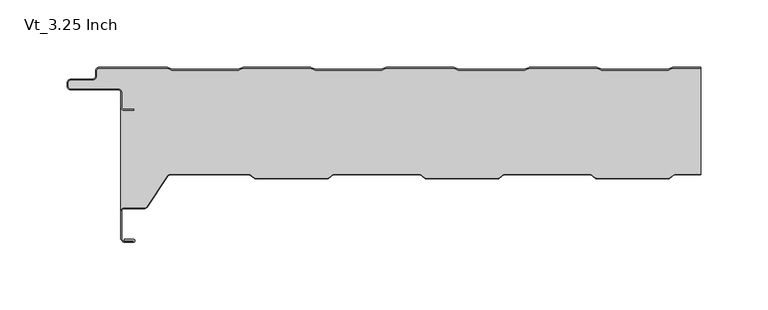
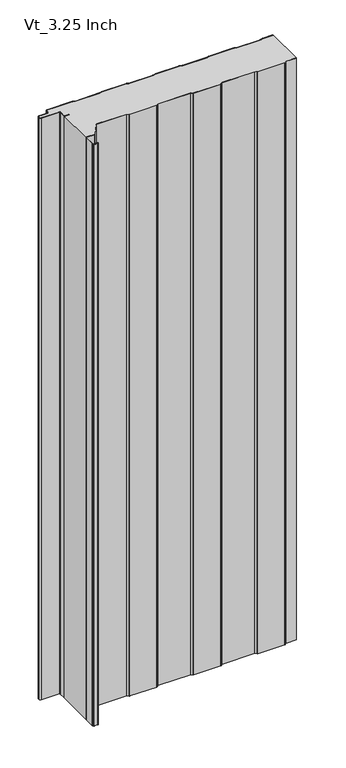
"""IFC4 building model written with IfcOpenShell, lengths in millimetres: plate geometry, KIP_R19_CP_KingSeam_Vt_Roof Panel : Vt_3.25 Inch."""

from ifc_helpers import new_model, si_unit, point, frame_2d, origin, origin_with_axes, place, context, project, spatial, polyline, circle_curve, trimmed, segment, composite_curve, outline, extrude, source, transform, mapped, element, save


def vt_3_25_inch_0b0972e9(model_context):
    return source(origin(), model_context, "Body", "SweptSolid", [
        extrude(outline(composite_curve([segment(trimmed(circle_curve(frame_2d((-213.9200605, -30.0)), 2.0), [point((-213.9200605, -32.0))], [point((-215.9200605, -30.0))], False, "CARTESIAN"), True, "CONTINUOUS"), segment(polyline([(-215.9200605, -30.0), (-215.9200605, -18.5)]), True, "CONTINUOUS"), segment(trimmed(circle_curve(frame_2d((-217.4200605, -18.5)), 1.5), [point((-215.9200605, -18.5))], [point((-217.4200605, -17.0))], True, "CARTESIAN"), True, "CONTINUOUS"), segment(polyline([(-217.4200605, -17.0), (-252.9200605, -17.0)]), True, "CONTINUOUS"), segment(trimmed(circle_curve(frame_2d((-252.9200605, -14.0)), 3.0), [point((-252.9200605, -17.0))], [point((-255.9200605, -14.0))], False, "CARTESIAN"), True, "CONTINUOUS"), segment(polyline([(-255.9200605, -14.0), (-255.9200605, -12.0)]), True, "CONTINUOUS"), segment(trimmed(circle_curve(frame_2d((-252.9200605, -12.0)), 3.0), [point((-255.9200605, -12.0))], [point((-252.9200605, -9.0))], False, "CARTESIAN"), True, "CONTINUOUS"), segment(polyline([(-252.9200605, -9.0), (-237.2042607, -9.0)]), True, "CONTINUOUS"), segment(trimmed(circle_curve(frame_2d((-237.2042607, -6.5)), 2.5), [point((-237.2042607, -9.0))], [point((-234.7042607, -6.5))], True, "CARTESIAN"), True, "CONTINUOUS"), segment(polyline([(-234.7042607, -6.5), (-234.7042607, -3.0)]), True, "CONTINUOUS"), segment(trimmed(circle_curve(frame_2d((-231.7042607, -3.0)), 3.0), [point((-234.7042607, -3.0))], [point((-231.7042607, 0.0))], False, "CARTESIAN"), True, "CONTINUOUS"), segment(polyline([(-231.7042607, 0.0), (-181.9469381, 0.0)]), True, "CONTINUOUS"), segment(trimmed(circle_curve(frame_2d((-181.9469381, -3.2)), 3.2), [point((-181.9469381, 0.0))], [point((-180.677843, -0.2624164))], False, "CARTESIAN"), True, "CONTINUOUS"), segment(polyline([(-180.677843, -0.2624164), (-178.2877438, -1.2949872)]), True, "CONTINUOUS"), segment(trimmed(circle_curve(frame_2d((-177.2962632, 1.0)), 2.5), [point((-178.2877438, -1.2949872))], [point((-177.2962632, -1.5))], True, "CARTESIAN"), True, "CONTINUOUS"), segment(polyline([(-177.2962632, -1.5), (-128.9122581, -1.5)]), True, "CONTINUOUS"), segment(trimmed(circle_curve(frame_2d((-128.9122581, 1.0)), 2.5), [point((-128.9122581, -1.5))], [point((-127.9207775, -1.2949872))], True, "CARTESIAN"), True, "CONTINUOUS"), segment(polyline([(-127.9207775, -1.2949872), (-125.5306783, -0.2624164)]), True, "CONTINUOUS"), segment(trimmed(circle_curve(frame_2d((-124.2615832, -3.2)), 3.2), [point((-125.5306783, -0.2624164))], [point((-124.2615832, 0.0))], False, "CARTESIAN"), True, "CONTINUOUS"), segment(polyline([(-124.2615832, 0.0), (-75.3469381, 0.0)]), True, "CONTINUOUS"), segment(trimmed(circle_curve(frame_2d((-75.3469381, -3.2)), 3.2), [point((-75.3469381, 0.0))], [point((-74.077843, -0.2624164))], False, "CARTESIAN"), True, "CONTINUOUS"), segment(polyline([(-74.077843, -0.2624164), (-71.6877438, -1.2949872)]), True, "CONTINUOUS"), segment(trimmed(circle_curve(frame_2d((-70.6962632, 1.0)), 2.5), [point((-71.6877438, -1.2949872))], [point((-70.6962632, -1.5))], True, "CARTESIAN"), True, "CONTINUOUS"), segment(polyline([(-70.6962632, -1.5), (-22.3122581, -1.5)]), True, "CONTINUOUS"), segment(trimmed(circle_curve(frame_2d((-22.3122581, 1.0)), 2.5), [point((-22.3122581, -1.5))], [point((-21.3207775, -1.2949872))], True, "CARTESIAN"), True, "CONTINUOUS"), segment(polyline([(-21.3207775, -1.2949872), (-18.9306783, -0.2624164)]), True, "CONTINUOUS"), segment(trimmed(circle_curve(frame_2d((-17.6615832, -3.2)), 3.2), [point((-18.9306783, -0.2624164))], [point((-17.6615832, 0.0))], False, "CARTESIAN"), True, "CONTINUOUS"), segment(polyline([(-17.6615832, 0.0), (31.2530619, 0.0)]), True, "CONTINUOUS"), segment(trimmed(circle_curve(frame_2d((31.2530619, -3.2)), 3.2), [point((31.2530619, 0.0))], [point((32.522157, -0.2624164))], False, "CARTESIAN"), True, "CONTINUOUS"), segment(polyline([(32.522157, -0.2624164), (34.9122562, -1.2949872)]), True, "CONTINUOUS"), segment(trimmed(circle_curve(frame_2d((35.9037368, 1.0)), 2.5), [point((34.9122562, -1.2949872))], [point((35.9037368, -1.5))], True, "CARTESIAN"), True, "CONTINUOUS"), segment(polyline([(35.9037368, -1.5), (84.2877419, -1.5)]), True, "CONTINUOUS"), segment(trimmed(circle_curve(frame_2d((84.2877419, 1.0)), 2.5), [point((84.2877419, -1.5))], [point((85.2792225, -1.2949872))], True, "CARTESIAN"), True, "CONTINUOUS"), segment(polyline([(85.2792225, -1.2949872), (87.6693217, -0.2624164)]), True, "CONTINUOUS"), segment(trimmed(circle_curve(frame_2d((88.9384168, -3.2)), 3.2), [point((87.6693217, -0.2624164))], [point((88.9384168, 0.0))], False, "CARTESIAN"), True, "CONTINUOUS"), segment(polyline([(88.9384168, 0.0), (137.8530619, 0.0)]), True, "CONTINUOUS"), segment(trimmed(circle_curve(frame_2d((137.8530619, -3.2)), 3.2), [point((137.8530619, 0.0))], [point((139.122157, -0.2624164))], False, "CARTESIAN"), True, "CONTINUOUS"), segment(polyline([(139.122157, -0.2624164), (141.5122562, -1.2949872)]), True, "CONTINUOUS"), segment(trimmed(circle_curve(frame_2d((142.5037368, 1.0)), 2.5), [point((141.5122562, -1.2949872))], [point((142.5037368, -1.5))], True, "CARTESIAN"), True, "CONTINUOUS"), segment(polyline([(142.5037368, -1.5), (190.8877419, -1.5)]), True, "CONTINUOUS"), segment(trimmed(circle_curve(frame_2d((190.8877419, 1.0)), 2.5), [point((190.8877419, -1.5))], [point((191.8792225, -1.2949872))], True, "CARTESIAN"), True, "CONTINUOUS"), segment(polyline([(191.8792225, -1.2949872), (194.2693217, -0.2624164)]), True, "CONTINUOUS"), segment(trimmed(circle_curve(frame_2d((195.5384168, -3.2)), 3.2), [point((194.2693217, -0.2624164))], [point((195.5384168, 0.0))], False, "CARTESIAN"), True, "CONTINUOUS"), segment(polyline([(195.5384168, 0.0), (215.9042607, 0.0), (215.9042607, -0.8), (195.5384168, -0.8)]), True, "CONTINUOUS"), segment(trimmed(circle_curve(frame_2d((195.5384168, -3.2)), 2.4), [point((195.5384168, -0.8))], [point((194.5865954, -0.9968123))], True, "CARTESIAN"), True, "CONTINUOUS"), segment(polyline([(194.5865954, -0.9968123), (192.1964962, -2.0293831)]), True, "CONTINUOUS"), segment(trimmed(circle_curve(frame_2d((190.8877419, 1.0)), 3.3), [point((192.1964962, -2.0293831))], [point((190.8877419, -2.3))], False, "CARTESIAN"), True, "CONTINUOUS"), segment(polyline([(190.8877419, -2.3), (142.5037368, -2.3)]), True, "CONTINUOUS"), segment(trimmed(circle_curve(frame_2d((142.5037368, 1.0)), 3.3), [point((142.5037368, -2.3))], [point((141.1949824, -2.0293831))], False, "CARTESIAN"), True, "CONTINUOUS"), segment(polyline([(141.1949824, -2.0293831), (138.8048832, -0.9968123)]), True, "CONTINUOUS"), segment(trimmed(circle_curve(frame_2d((137.8530619, -3.2)), 2.4), [point((138.8048832, -0.9968123))], [point((137.8530619, -0.8))], True, "CARTESIAN"), True, "CONTINUOUS"), segment(polyline([(137.8530619, -0.8), (88.9384168, -0.8)]), True, "CONTINUOUS"), segment(trimmed(circle_curve(frame_2d((88.9384168, -3.2)), 2.4), [point((88.9384168, -0.8))], [point((87.9865954, -0.9968123))], True, "CARTESIAN"), True, "CONTINUOUS"), segment(polyline([(87.9865954, -0.9968123), (85.5964962, -2.0293831)]), True, "CONTINUOUS"), segment(trimmed(circle_curve(frame_2d((84.2877419, 1.0)), 3.3), [point((85.5964962, -2.0293831))], [point((84.2877419, -2.3))], False, "CARTESIAN"), True, "CONTINUOUS"), segment(polyline([(84.2877419, -2.3), (35.9037368, -2.3)]), True, "CONTINUOUS"), segment(trimmed(circle_curve(frame_2d((35.9037368, 1.0)), 3.3), [point((35.9037368, -2.3))], [point((34.5949824, -2.0293831))], False, "CARTESIAN"), True, "CONTINUOUS"), segment(polyline([(34.5949824, -2.0293831), (32.2048832, -0.9968123)]), True, "CONTINUOUS"), segment(trimmed(circle_curve(frame_2d((31.2530619, -3.2)), 2.4), [point((32.2048832, -0.9968123))], [point((31.2530619, -0.8))], True, "CARTESIAN"), True, "CONTINUOUS"), segment(polyline([(31.2530619, -0.8), (-17.6615832, -0.8)]), True, "CONTINUOUS"), segment(trimmed(circle_curve(frame_2d((-17.6615832, -3.2)), 2.4), [point((-17.6615832, -0.8))], [point((-18.6134046, -0.9968123))], True, "CARTESIAN"), True, "CONTINUOUS"), segment(polyline([(-18.6134046, -0.9968123), (-21.0035038, -2.0293831)]), True, "CONTINUOUS"), segment(trimmed(circle_curve(frame_2d((-22.3122581, 1.0)), 3.3), [point((-21.0035038, -2.0293831))], [point((-22.3122581, -2.3))], False, "CARTESIAN"), True, "CONTINUOUS"), segment(polyline([(-22.3122581, -2.3), (-70.6962632, -2.3)]), True, "CONTINUOUS"), segment(trimmed(circle_curve(frame_2d((-70.6962632, 1.0)), 3.3), [point((-70.6962632, -2.3))], [point((-72.0050176, -2.0293831))], False, "CARTESIAN"), True, "CONTINUOUS"), segment(polyline([(-72.0050176, -2.0293831), (-74.3951168, -0.9968123)]), True, "CONTINUOUS"), segment(trimmed(circle_curve(frame_2d((-75.3469381, -3.2)), 2.4), [point((-74.3951168, -0.9968123))], [point((-75.3469381, -0.8))], True, "CARTESIAN"), True, "CONTINUOUS"), segment(polyline([(-75.3469381, -0.8), (-124.2615832, -0.8)]), True, "CONTINUOUS"), segment(trimmed(circle_curve(frame_2d((-124.2615832, -3.2)), 2.4), [point((-124.2615832, -0.8))], [point((-125.2134046, -0.9968123))], True, "CARTESIAN"), True, "CONTINUOUS"), segment(polyline([(-125.2134046, -0.9968123), (-127.6035038, -2.0293831)]), True, "CONTINUOUS"), segment(trimmed(circle_curve(frame_2d((-128.9122581, 1.0)), 3.3), [point((-127.6035038, -2.0293831))], [point((-128.9122581, -2.3))], False, "CARTESIAN"), True, "CONTINUOUS"), segment(polyline([(-128.9122581, -2.3), (-177.2962632, -2.3)]), True, "CONTINUOUS"), segment(trimmed(circle_curve(frame_2d((-177.2962632, 1.0)), 3.3), [point((-177.2962632, -2.3))], [point((-178.6050176, -2.0293831))], False, "CARTESIAN"), True, "CONTINUOUS"), segment(polyline([(-178.6050176, -2.0293831), (-180.9951168, -0.9968123)]), True, "CONTINUOUS"), segment(trimmed(circle_curve(frame_2d((-181.9469381, -3.2)), 2.4), [point((-180.9951168, -0.9968123))], [point((-181.9469381, -0.8))], True, "CARTESIAN"), True, "CONTINUOUS"), segment(polyline([(-181.9469381, -0.8), (-231.7042607, -0.8)]), True, "CONTINUOUS"), segment(trimmed(circle_curve(frame_2d((-232.1480113, -2.8161925)), 2.0644483), [point((-231.7042607, -0.8))], [point((-234.2042607, -3.0))], True, "CARTESIAN"), True, "CONTINUOUS"), segment(polyline([(-234.2042607, -3.0), (-234.2042607, -6.5)]), True, "CONTINUOUS"), segment(trimmed(circle_curve(frame_2d((-237.2042607, -6.5)), 3.0), [point((-234.2042607, -6.5))], [point((-237.2042607, -9.5))], False, "CARTESIAN"), True, "CONTINUOUS"), segment(polyline([(-237.2042607, -9.5), (-252.9200605, -9.5)]), True, "CONTINUOUS"), segment(trimmed(circle_curve(frame_2d((-252.9200605, -12.0)), 2.5), [point((-252.9200605, -9.5))], [point((-255.4200605, -12.0))], True, "CARTESIAN"), True, "CONTINUOUS"), segment(polyline([(-255.4200605, -12.0), (-255.4200605, -14.0)]), True, "CONTINUOUS"), segment(trimmed(circle_curve(frame_2d((-252.9200605, -14.0)), 2.5), [point((-255.4200605, -14.0))], [point((-252.9200605, -16.5))], True, "CARTESIAN"), True, "CONTINUOUS"), segment(polyline([(-252.9200605, -16.5), (-217.4200605, -16.5)]), True, "CONTINUOUS"), segment(trimmed(circle_curve(frame_2d((-217.4200605, -18.5)), 2.0), [point((-217.4200605, -16.5))], [point((-215.4200605, -18.5))], False, "CARTESIAN"), True, "CONTINUOUS"), segment(polyline([(-215.4200605, -18.5), (-215.4200605, -29.7)]), True, "CONTINUOUS"), segment(trimmed(circle_curve(frame_2d((-213.9200605, -29.7)), 1.5), [point((-215.4200605, -29.7))], [point((-213.9200605, -31.2))], True, "CARTESIAN"), True, "CONTINUOUS"), segment(polyline([(-213.9200605, -31.2), (-206.4200605, -31.2), (-206.4200605, -32.0), (-213.9200605, -32.0)]), True, "CONTINUOUS")], self_intersect=False)), origin_with_axes(), (0.0, 0.0, 1.0), 1219.2),
        extrude(outline(composite_curve([segment(polyline([(195.5542167, -0.7999994), (215.9042607, -0.7999994), (215.9042607, -79.7658809), (196.3089613, -79.7658809), (192.849266, -82.2658093)]), True, "CONTINUOUS"), segment(trimmed(circle_curve(frame_2d((191.9707393, -81.0500006)), 1.4999999), [point((192.849266, -82.2658093))], [point((191.9707393, -82.5500006))], False, "CARTESIAN"), True, "CONTINUOUS"), segment(polyline([(191.9707393, -82.5500006), (138.2207394, -82.5500006)]), True, "CONTINUOUS"), segment(trimmed(circle_curve(frame_2d((138.2207394, -81.0500005)), 1.5000001), [point((138.2207394, -82.5500006))], [point((137.3422125, -82.2658092))], False, "CARTESIAN"), True, "CONTINUOUS"), segment(polyline([(137.3422125, -82.2658092), (133.8825178, -79.7658809), (69.3089613, -79.7658809), (65.8492658, -82.2658092)]), True, "CONTINUOUS"), segment(trimmed(circle_curve(frame_2d((64.9707393, -81.0500006)), 1.4999997), [point((65.8492658, -82.2658092))], [point((64.9707393, -82.5500004))], False, "CARTESIAN"), True, "CONTINUOUS"), segment(polyline([(64.9707393, -82.5500004), (11.2207394, -82.5500004)]), True, "CONTINUOUS"), segment(trimmed(circle_curve(frame_2d((11.2207394, -81.0500003)), 1.5000001), [point((11.2207394, -82.5500004))], [point((10.3422125, -82.265809))], False, "CARTESIAN"), True, "CONTINUOUS"), segment(polyline([(10.3422125, -82.265809), (6.8825178, -79.7658807), (-57.6910391, -79.7658807), (-61.1507337, -82.265809)]), True, "CONTINUOUS"), segment(trimmed(circle_curve(frame_2d((-62.0292606, -81.0500001)), 1.5000002), [point((-61.1507337, -82.265809))], [point((-62.0292606, -82.5500003))], False, "CARTESIAN"), True, "CONTINUOUS"), segment(polyline([(-62.0292606, -82.5500003), (-115.7792606, -82.5500003)]), True, "CONTINUOUS"), segment(trimmed(circle_curve(frame_2d((-115.7792606, -81.0500002)), 1.5000002), [point((-115.7792606, -82.5500003))], [point((-116.6577875, -82.265809))], False, "CARTESIAN"), True, "CONTINUOUS"), segment(polyline([(-116.6577875, -82.265809), (-120.1174822, -79.7658807), (-179.2914098, -79.7658807)]), True, "CONTINUOUS"), segment(trimmed(circle_curve(frame_2d((-179.2914098, -82.2658809)), 2.5000002), [point((-179.2914098, -79.7658807))], [point((-181.3764799, -80.8865754))], True, "CARTESIAN"), True, "CONTINUOUS"), segment(polyline([(-181.3764799, -80.8865754), (-196.5799181, -103.8693254)]), True, "CONTINUOUS"), segment(trimmed(circle_curve(frame_2d((-198.2479741, -102.7658811)), 2.0), [point((-196.5799181, -103.8693254))], [point((-198.2479741, -104.7658811))], False, "CARTESIAN"), True, "CONTINUOUS"), segment(polyline([(-198.2479741, -104.7658811), (-213.8042606, -104.7658811)]), True, "CONTINUOUS"), segment(trimmed(circle_curve(frame_2d((-213.8042606, -106.8658809)), 2.0999999), [point((-213.8042606, -104.7658811))], [point((-215.9042605, -106.8658809))], True, "CARTESIAN"), True, "CONTINUOUS"), segment(polyline([(-215.9042605, -106.8658809), (-215.9042605, -29.9999994)]), True, "CONTINUOUS"), segment(trimmed(circle_curve(frame_2d((-213.9042605, -29.9999994)), 2.0), [point((-215.9042605, -29.9999994))], [point((-213.9042605, -31.9999994))], True, "CARTESIAN"), True, "CONTINUOUS"), segment(polyline([(-213.9042605, -31.9999994), (-206.4042605, -31.9999994), (-206.4042605, -31.1999994), (-213.9042605, -31.1999994)]), True, "CONTINUOUS"), segment(trimmed(circle_curve(frame_2d((-213.9042605, -29.6999994)), 1.5), [point((-213.9042605, -31.1999994))], [point((-215.4042605, -29.6999994))], False, "CARTESIAN"), True, "CONTINUOUS"), segment(polyline([(-215.4042605, -29.6999994), (-215.4042605, -18.4999994)]), True, "CONTINUOUS"), segment(trimmed(circle_curve(frame_2d((-217.4042605, -18.4999994)), 2.0), [point((-215.4042605, -18.4999994))], [point((-217.4042605, -16.4999994))], True, "CARTESIAN"), True, "CONTINUOUS"), segment(polyline([(-217.4042605, -16.4999994), (-252.9042605, -16.4999994)]), True, "CONTINUOUS"), segment(trimmed(circle_curve(frame_2d((-252.9042605, -13.9999994)), 2.5), [point((-252.9042605, -16.4999994))], [point((-255.4042605, -13.9999994))], False, "CARTESIAN"), True, "CONTINUOUS"), segment(polyline([(-255.4042605, -13.9999994), (-255.4042605, -11.9999994)]), True, "CONTINUOUS"), segment(trimmed(circle_curve(frame_2d((-252.9042605, -11.9999994)), 2.5), [point((-255.4042605, -11.9999994))], [point((-252.9042605, -9.4999994))], False, "CARTESIAN"), True, "CONTINUOUS"), segment(polyline([(-252.9042605, -9.4999994), (-237.1884607, -9.4999994)]), True, "CONTINUOUS"), segment(trimmed(circle_curve(frame_2d((-237.1884607, -6.4999994)), 3.0), [point((-237.1884607, -9.4999994))], [point((-234.1884607, -6.4999994))], True, "CARTESIAN"), True, "CONTINUOUS"), segment(polyline([(-234.1884607, -6.4999994), (-234.1884607, -2.9999994)]), True, "CONTINUOUS"), segment(trimmed(circle_curve(frame_2d((-232.1322114, -2.8161919)), 2.0644483), [point((-234.1884607, -2.9999994))], [point((-231.6884607, -0.7999994))], False, "CARTESIAN"), True, "CONTINUOUS"), segment(polyline([(-231.6884607, -0.7999994), (-181.9311382, -0.7999994)]), True, "CONTINUOUS"), segment(trimmed(circle_curve(frame_2d((-181.9311382, -3.1999994)), 2.4), [point((-181.9311382, -0.7999994))], [point((-180.9793169, -0.9968117))], False, "CARTESIAN"), True, "CONTINUOUS"), segment(polyline([(-180.9793169, -0.9968117), (-178.5892176, -2.0293826)]), True, "CONTINUOUS"), segment(trimmed(circle_curve(frame_2d((-177.2804633, 1.0000006)), 3.3), [point((-178.5892176, -2.0293826))], [point((-177.2804633, -2.2999994))], True, "CARTESIAN"), True, "CONTINUOUS"), segment(polyline([(-177.2804633, -2.2999994), (-128.8964582, -2.2999994)]), True, "CONTINUOUS"), segment(trimmed(circle_curve(frame_2d((-128.8964582, 1.0000006)), 3.3), [point((-128.8964582, -2.2999994))], [point((-127.5877038, -2.0293826))], True, "CARTESIAN"), True, "CONTINUOUS"), segment(polyline([(-127.5877038, -2.0293826), (-125.1976046, -0.9968117)]), True, "CONTINUOUS"), segment(trimmed(circle_curve(frame_2d((-124.2457833, -3.1999994)), 2.4), [point((-125.1976046, -0.9968117))], [point((-124.2457833, -0.7999994))], False, "CARTESIAN"), True, "CONTINUOUS"), segment(polyline([(-124.2457833, -0.7999994), (-75.3311382, -0.7999994)]), True, "CONTINUOUS"), segment(trimmed(circle_curve(frame_2d((-75.3311382, -3.1999994)), 2.4), [point((-75.3311382, -0.7999994))], [point((-74.3793169, -0.9968117))], False, "CARTESIAN"), True, "CONTINUOUS"), segment(polyline([(-74.3793169, -0.9968117), (-71.9892176, -2.0293826)]), True, "CONTINUOUS"), segment(trimmed(circle_curve(frame_2d((-70.6804633, 1.0000006)), 3.3), [point((-71.9892176, -2.0293826))], [point((-70.6804633, -2.2999994))], True, "CARTESIAN"), True, "CONTINUOUS"), segment(polyline([(-70.6804633, -2.2999994), (-22.2964582, -2.2999994)]), True, "CONTINUOUS"), segment(trimmed(circle_curve(frame_2d((-22.2964582, 1.0000006)), 3.3), [point((-22.2964582, -2.2999994))], [point((-20.9877038, -2.0293826))], True, "CARTESIAN"), True, "CONTINUOUS"), segment(polyline([(-20.9877038, -2.0293826), (-18.5976046, -0.9968117)]), True, "CONTINUOUS"), segment(trimmed(circle_curve(frame_2d((-17.6457833, -3.1999994)), 2.4), [point((-18.5976046, -0.9968117))], [point((-17.6457833, -0.7999994))], False, "CARTESIAN"), True, "CONTINUOUS"), segment(polyline([(-17.6457833, -0.7999994), (31.2688618, -0.7999994)]), True, "CONTINUOUS"), segment(trimmed(circle_curve(frame_2d((31.2688618, -3.1999994)), 2.4), [point((31.2688618, -0.7999994))], [point((32.2206831, -0.9968117))], False, "CARTESIAN"), True, "CONTINUOUS"), segment(polyline([(32.2206831, -0.9968117), (34.6107824, -2.0293826)]), True, "CONTINUOUS"), segment(trimmed(circle_curve(frame_2d((35.9195367, 1.0000006)), 3.3), [point((34.6107824, -2.0293826))], [point((35.9195367, -2.2999994))], True, "CARTESIAN"), True, "CONTINUOUS"), segment(polyline([(35.9195367, -2.2999994), (84.3035418, -2.2999994)]), True, "CONTINUOUS"), segment(trimmed(circle_curve(frame_2d((84.3035418, 1.0000006)), 3.3), [point((84.3035418, -2.2999994))], [point((85.6122962, -2.0293826))], True, "CARTESIAN"), True, "CONTINUOUS"), segment(polyline([(85.6122962, -2.0293826), (88.0023954, -0.9968117)]), True, "CONTINUOUS"), segment(trimmed(circle_curve(frame_2d((88.9542167, -3.1999994)), 2.4), [point((88.0023954, -0.9968117))], [point((88.9542167, -0.7999994))], False, "CARTESIAN"), True, "CONTINUOUS"), segment(polyline([(88.9542167, -0.7999994), (137.8688618, -0.7999994)]), True, "CONTINUOUS"), segment(trimmed(circle_curve(frame_2d((137.8688618, -3.1999994)), 2.4), [point((137.8688618, -0.7999994))], [point((138.8206831, -0.9968117))], False, "CARTESIAN"), True, "CONTINUOUS"), segment(polyline([(138.8206831, -0.9968117), (141.2107824, -2.0293826)]), True, "CONTINUOUS"), segment(trimmed(circle_curve(frame_2d((142.5195367, 1.0000006)), 3.3), [point((141.2107824, -2.0293826))], [point((142.5195367, -2.2999994))], True, "CARTESIAN"), True, "CONTINUOUS"), segment(polyline([(142.5195367, -2.2999994), (190.9035418, -2.2999994)]), True, "CONTINUOUS"), segment(trimmed(circle_curve(frame_2d((190.9035418, 1.0000006)), 3.3), [point((190.9035418, -2.2999994))], [point((192.2122962, -2.0293826))], True, "CARTESIAN"), True, "CONTINUOUS"), segment(polyline([(192.2122962, -2.0293826), (194.6023954, -0.9968117)]), True, "CONTINUOUS"), segment(trimmed(circle_curve(frame_2d((195.5542167, -3.1999994)), 2.4), [point((194.6023954, -0.9968117))], [point((195.5542167, -0.7999994))], False, "CARTESIAN"), True, "CONTINUOUS")], self_intersect=False)), origin_with_axes(), (0.0, 0.0, 1.0), 1219.2),
        extrude(outline(composite_curve([segment(polyline([(196.268218, -79.7658803), (215.9042607, -79.7658803), (215.9042607, -80.2658804), (196.2682176, -80.2658804), (192.8085228, -82.7658085)]), True, "CONTINUOUS"), segment(trimmed(circle_curve(frame_2d((191.929996, -81.5499998)), 1.5), [point((192.8085228, -82.7658085))], [point((191.9290246, -83.0499995))], False, "CARTESIAN"), True, "CONTINUOUS"), segment(polyline([(191.9290246, -83.0499995), (138.1799961, -83.0499995)]), True, "CONTINUOUS"), segment(trimmed(circle_curve(frame_2d((138.1799961, -81.5499995)), 1.5), [point((138.1799961, -83.0499995))], [point((137.3014693, -82.7658082))], False, "CARTESIAN"), True, "CONTINUOUS"), segment(polyline([(137.3014693, -82.7658082), (133.8417751, -80.2658804), (69.2682178, -80.2658804), (65.8085233, -82.7658087)]), True, "CONTINUOUS"), segment(trimmed(circle_curve(frame_2d((64.9299963, -81.5499998)), 1.5000003), [point((65.8085233, -82.7658087))], [point((64.9290248, -83.0499999))], False, "CARTESIAN"), True, "CONTINUOUS"), segment(polyline([(64.9290248, -83.0499999), (11.1799962, -83.0499999)]), True, "CONTINUOUS"), segment(trimmed(circle_curve(frame_2d((11.1799962, -81.5499998)), 1.5), [point((11.1799962, -83.0499999))], [point((10.3014694, -82.7658085))], False, "CARTESIAN"), True, "CONTINUOUS"), segment(polyline([(10.3014694, -82.7658085), (6.8417748, -80.2658804), (-57.7317821, -80.2658804), (-61.191477, -82.7658085)]), True, "CONTINUOUS"), segment(trimmed(circle_curve(frame_2d((-62.0700036, -81.5499999)), 1.4999999), [point((-61.191477, -82.7658085))], [point((-62.0709751, -83.0499995))], False, "CARTESIAN"), True, "CONTINUOUS"), segment(polyline([(-62.0709751, -83.0499995), (-115.8200035, -83.0499995)]), True, "CONTINUOUS"), segment(trimmed(circle_curve(frame_2d((-115.8200035, -81.5499994)), 1.5000001), [point((-115.8200035, -83.0499995))], [point((-116.6985303, -82.7658081))], False, "CARTESIAN"), True, "CONTINUOUS"), segment(polyline([(-116.6985303, -82.7658081), (-120.1582242, -80.2658806), (-179.3321527, -80.2658806)]), True, "CONTINUOUS"), segment(trimmed(circle_curve(frame_2d((-179.3321527, -82.2658804)), 1.9999997), [point((-179.3321527, -80.2658806))], [point((-181.0002085, -81.1624361))], True, "CARTESIAN"), True, "CONTINUOUS"), segment(polyline([(-181.0002085, -81.1624361), (-196.2036471, -104.1451861)]), True, "CONTINUOUS"), segment(trimmed(circle_curve(frame_2d((-198.2887169, -102.7658807)), 2.4999999), [point((-196.2036471, -104.1451861))], [point((-198.2887169, -105.2658806))], False, "CARTESIAN"), True, "CONTINUOUS"), segment(polyline([(-198.2887169, -105.2658806), (-213.8450035, -105.2658806)]), True, "CONTINUOUS"), segment(trimmed(circle_curve(frame_2d((-213.8450035, -106.8658806)), 1.6), [point((-213.8450035, -105.2658806))], [point((-215.4450035, -106.8658806))], True, "CARTESIAN"), True, "CONTINUOUS"), segment(polyline([(-215.4450035, -106.8658806), (-215.4450035, -127.7169597)]), True, "CONTINUOUS"), segment(trimmed(circle_curve(frame_2d((-214.2550035, -127.7169597)), 1.19), [point((-215.4450035, -127.7169597))], [point((-215.0964606, -128.5584168))], True, "CARTESIAN"), True, "CONTINUOUS"), segment(polyline([(-215.0964606, -128.5584168), (-214.0864397, -129.5684377)]), True, "CONTINUOUS"), segment(trimmed(circle_curve(frame_2d((-213.2449826, -128.7269807)), 1.19), [point((-214.0864397, -129.5684377))], [point((-213.2449826, -129.9169807))], True, "CARTESIAN"), True, "CONTINUOUS"), segment(polyline([(-213.2449826, -129.9169807), (-206.5150035, -129.9169807)]), True, "CONTINUOUS"), segment(trimmed(circle_curve(frame_2d((-206.5150035, -129.5169807)), 0.4), [point((-206.5150035, -129.9169807))], [point((-206.5150035, -129.1169807))], True, "CARTESIAN"), True, "CONTINUOUS"), segment(polyline([(-206.5150035, -129.1169807), (-213.2449826, -129.1169807), (-213.2449826, -128.3169807), (-206.5150035, -128.3169807)]), True, "CONTINUOUS"), segment(trimmed(circle_curve(frame_2d((-206.5150035, -129.3669807)), 1.05), [point((-206.5150035, -128.3169807))], [point((-206.5150035, -130.4169807))], False, "CARTESIAN"), True, "CONTINUOUS"), segment(polyline([(-206.5150035, -130.4169807), (-213.2449826, -130.4169807)]), True, "CONTINUOUS"), segment(trimmed(circle_curve(frame_2d((-213.2449826, -128.7269807)), 1.69), [point((-213.2449826, -130.4169807))], [point((-214.4399932, -129.921991))], False, "CARTESIAN"), True, "CONTINUOUS"), segment(polyline([(-214.4399932, -129.921991), (-215.450014, -128.91197)]), True, "CONTINUOUS"), segment(trimmed(circle_curve(frame_2d((-214.2550035, -127.7169597)), 1.6899998), [point((-215.450014, -128.91197))], [point((-215.9450033, -127.7169597))], False, "CARTESIAN"), True, "CONTINUOUS"), segment(polyline([(-215.9450033, -127.7169597), (-215.9450033, -106.8658805)]), True, "CONTINUOUS"), segment(trimmed(circle_curve(frame_2d((-213.8450035, -106.8658805)), 2.0999998), [point((-215.9450033, -106.8658805))], [point((-213.8450035, -104.7658807))], False, "CARTESIAN"), True, "CONTINUOUS"), segment(polyline([(-213.8450035, -104.7658807), (-198.2887169, -104.7658807)]), True, "CONTINUOUS"), segment(trimmed(circle_curve(frame_2d((-198.2887169, -102.7658807)), 2.0), [point((-198.2887169, -104.7658807))], [point((-196.620661, -103.869325))], True, "CARTESIAN"), True, "CONTINUOUS"), segment(polyline([(-196.620661, -103.869325), (-181.4172227, -80.8865749)]), True, "CONTINUOUS"), segment(trimmed(circle_curve(frame_2d((-179.3321527, -82.2658804)), 2.5), [point((-181.4172227, -80.8865749))], [point((-179.3321527, -79.7658803))], False, "CARTESIAN"), True, "CONTINUOUS"), segment(polyline([(-179.3321527, -79.7658803), (-120.1582251, -79.7658803), (-116.6985304, -82.2658086)]), True, "CONTINUOUS"), segment(trimmed(circle_curve(frame_2d((-115.8200035, -81.0499998)), 1.5000002), [point((-116.6985304, -82.2658086))], [point((-115.8200035, -82.5499999))], True, "CARTESIAN"), True, "CONTINUOUS"), segment(polyline([(-115.8200035, -82.5499999), (-62.0700036, -82.5499999)]), True, "CONTINUOUS"), segment(trimmed(circle_curve(frame_2d((-62.0700036, -81.0499999)), 1.5), [point((-62.0700036, -82.5499999))], [point((-61.1914768, -82.2658086))], True, "CARTESIAN"), True, "CONTINUOUS"), segment(polyline([(-61.1914768, -82.2658086), (-57.7317821, -79.7658803), (6.8417748, -79.7658803), (10.3014694, -82.2658087)]), True, "CONTINUOUS"), segment(trimmed(circle_curve(frame_2d((11.1799962, -81.0500001)), 1.5), [point((10.3014694, -82.2658087))], [point((11.1799962, -82.5500001))], True, "CARTESIAN"), True, "CONTINUOUS"), segment(polyline([(11.1799962, -82.5500001), (64.9299962, -82.5500001)]), True, "CONTINUOUS"), segment(trimmed(circle_curve(frame_2d((64.9299962, -81.0500001)), 1.5), [point((64.9299962, -82.5500001))], [point((65.808523, -82.2658088))], True, "CARTESIAN"), True, "CONTINUOUS"), segment(polyline([(65.808523, -82.2658088), (69.2682182, -79.7658803), (133.8417747, -79.7658803), (137.3014693, -82.2658086)]), True, "CONTINUOUS"), segment(trimmed(circle_curve(frame_2d((138.1799961, -81.0499999)), 1.5), [point((137.3014693, -82.2658086))], [point((138.1799961, -82.5499999))], True, "CARTESIAN"), True, "CONTINUOUS"), segment(polyline([(138.1799961, -82.5499999), (191.929996, -82.5499999)]), True, "CONTINUOUS"), segment(trimmed(circle_curve(frame_2d((191.929996, -81.0500001)), 1.4999998), [point((191.929996, -82.5499999))], [point((192.8085226, -82.2658087))], True, "CARTESIAN"), True, "CONTINUOUS"), segment(polyline([(192.8085226, -82.2658087), (196.268218, -79.7658803)]), True, "CONTINUOUS")], self_intersect=False)), origin_with_axes(), (0.0, 0.0, 1.0), 1219.2),
    ])


if __name__ == "__main__":
    model = new_model("IFC4")
    model_context = context("Model", 3, world=origin())
    ifc_project = project(units=[si_unit("LENGTHUNIT", "METRE", prefix="MILLI")], contexts=[model_context])
    site = spatial("IfcSite", under=ifc_project)
    building = spatial("IfcBuilding", under=site)
    placement = place(None, origin())
    vt_3_25_inch_shape = vt_3_25_inch_0b0972e9(model_context)
    element("IfcPlate", 1, ObjectType="KIP_R19_CP_KingSeam_Vt_Roof Panel : Vt_3.25 Inch", at=placement, inside=building, context=model_context, shape_type="MappedRepresentation", body=[
        mapped(vt_3_25_inch_shape, transform((0.0, 0.0, 0.0), x_axis=(1.0, 0.0, 0.0), y_axis=(0.0, 1.0, 0.0), z_axis=(0.0, 0.0, 1.0))),
    ])
    save(model, "model.ifc")
